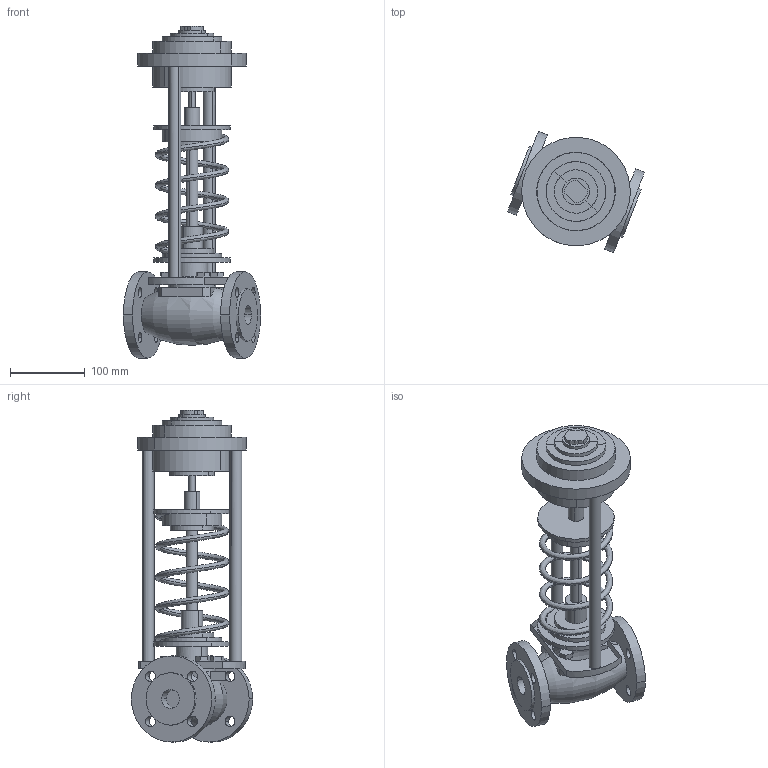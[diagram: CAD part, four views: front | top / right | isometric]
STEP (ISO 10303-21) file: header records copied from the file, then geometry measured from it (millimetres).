
FILE_DESCRIPTION (( 'STEP AP214' ), '1' );
FILE_NAME ('RDT-H-RDT-PH DN25.STEP', '2025-12-12T10:52:07', ( '' ), ( '' ), 'SwSTEP 2.0', 'SolidWorks 2023', '' );
FILE_SCHEMA (( 'AUTOMOTIVE_DESIGN' ));
Length unit declared in the file: millimetre
Products named in the file (1): RDT-H-RDT-PH DN25
Bounding box: 183.14 x 161.88 x 443.5 mm (x, y, z)
Volume: 2134076.2 mm3; surface area: 277445 mm2
Topology: 1 solids, 1 shells, 162 faces, 389 edges, 256 vertices
Faces by surface type: cylinder 75, plane 70, cone 12, bspline 3, torus 2
Entity records: 17271 total; most frequent: CARTESIAN_POINT 13277, DIRECTION 875, ORIENTED_EDGE 778, EDGE_CURVE 389, AXIS2_PLACEMENT_3D 341, VERTEX_POINT 256, EDGE_LOOP 211, LINE 193
